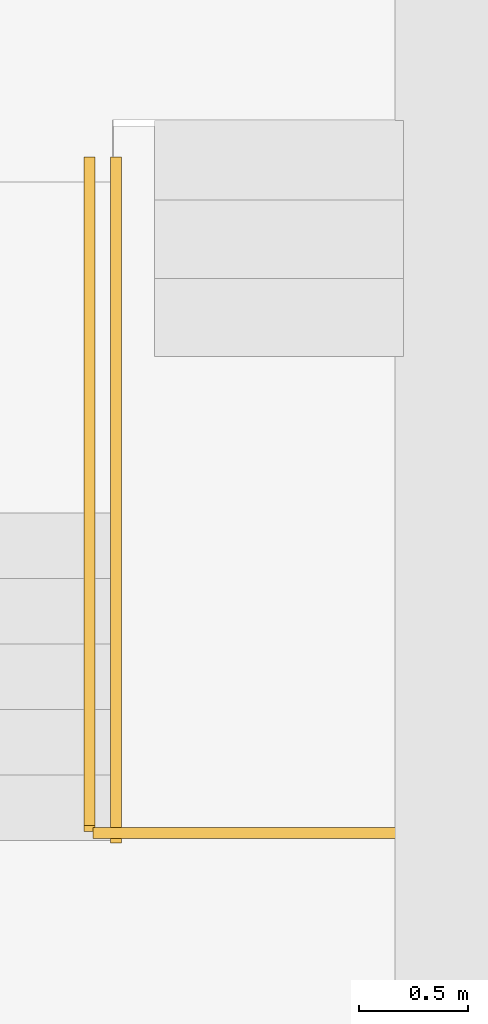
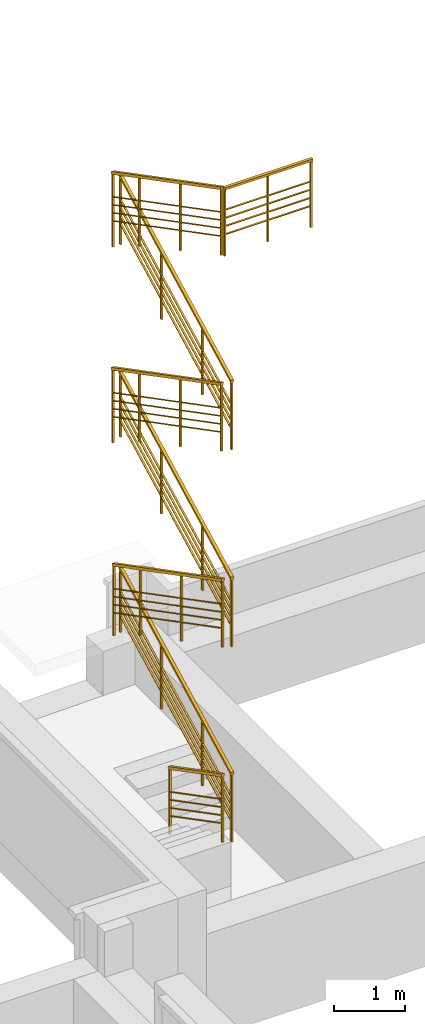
# One storey, part 6 of 6: 1 railing.
"""IFC2X3 building model written with IfcOpenShell, lengths in millimetres."""

from ifc_helpers import new_model, entity, si_unit, converted_unit, derived_unit, direction, frame, frame_2d, origin, place, context, subcontext, project, spatial, polyline, rectangle, outline, extrude, source, transform, mapped, material, type_object, type_shapes, element, save


model = new_model("IFC2X3")

# Units and contexts
model_context = context("Model", 3, precision=0.01, world=origin(), true_north=direction((6.12303176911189e-17, 1.0)))
body_context = subcontext(model_context, "Body", "Model", "MODEL_VIEW")
ifc_project = project(units=[si_unit("LENGTHUNIT", "METRE", prefix="MILLI"), si_unit("AREAUNIT", "SQUARE_METRE"), si_unit("VOLUMEUNIT", "CUBIC_METRE"), converted_unit("PLANEANGLEUNIT", "DEGREE", entity("IfcRatioMeasure", 0.0174532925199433), si_unit("PLANEANGLEUNIT", "RADIAN"), dimensions=[0, 0, 0, 0, 0, 0, 0]), si_unit("MASSUNIT", "GRAM", prefix="KILO"), derived_unit("MASSDENSITYUNIT", [(si_unit("MASSUNIT", "GRAM", prefix="KILO"), 1), (si_unit("LENGTHUNIT", "METRE"), -3)]), si_unit("TIMEUNIT", "SECOND"), si_unit("FREQUENCYUNIT", "HERTZ"), si_unit("THERMODYNAMICTEMPERATUREUNIT", "DEGREE_CELSIUS"), derived_unit("THERMALTRANSMITTANCEUNIT", [(si_unit("MASSUNIT", "GRAM", prefix="KILO"), 1), (si_unit("THERMODYNAMICTEMPERATUREUNIT", "KELVIN"), -1), (si_unit("TIMEUNIT", "SECOND"), -3)]), derived_unit("VOLUMETRICFLOWRATEUNIT", [(si_unit("LENGTHUNIT", "METRE"), 3), (si_unit("TIMEUNIT", "SECOND"), -1)]), si_unit("ELECTRICCURRENTUNIT", "AMPERE"), si_unit("ELECTRICVOLTAGEUNIT", "VOLT"), si_unit("POWERUNIT", "WATT"), si_unit("FORCEUNIT", "NEWTON", prefix="KILO"), si_unit("ILLUMINANCEUNIT", "LUX"), si_unit("LUMINOUSFLUXUNIT", "LUMEN"), si_unit("LUMINOUSINTENSITYUNIT", "CANDELA"), derived_unit("USERDEFINED", [(si_unit("MASSUNIT", "GRAM", prefix="KILO"), -1), (si_unit("LENGTHUNIT", "METRE"), -2), (si_unit("TIMEUNIT", "SECOND"), 3), (si_unit("LUMINOUSFLUXUNIT", "LUMEN"), 1)]), derived_unit("LINEARVELOCITYUNIT", [(si_unit("LENGTHUNIT", "METRE"), 1), (si_unit("TIMEUNIT", "SECOND"), -1)]), si_unit("PRESSUREUNIT", "PASCAL"), derived_unit("USERDEFINED", [(si_unit("LENGTHUNIT", "METRE"), -2), (si_unit("MASSUNIT", "GRAM", prefix="KILO"), 1), (si_unit("TIMEUNIT", "SECOND"), -2)])], contexts=[model_context])

# Site, building, storey
site_placement = place(None, frame((-151.875543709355, 2715.0, 0.0)))
site = spatial("IfcSite", under=ifc_project, at=site_placement, Name="Surface", CompositionType="ELEMENT")
building_placement = place(site_placement, origin())
building = spatial("IfcBuilding", under=site, at=building_placement, CompositionType="ELEMENT")
storey_placement = place(building_placement, frame((0.0, 0.0, -1200.0)))
storey = spatial("IfcBuildingStorey", under=building, at=storey_placement, Name="Vundament", CompositionType="ELEMENT", Elevation=-1199.99999999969)

# Railing
ifc_material = material(Name="__Metal Tumehall")
railing_type = type_object("IfcRailingType", Name="Generic Models 7", PredefinedType="NOTDEFINED", material=ifc_material)
shared_shape = source(origin(), body_context, "Body", "SweptSolid", [
    extrude(outline(polyline([(-411.736075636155, -748.318699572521), (-366.887595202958, -748.318699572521), (411.736075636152, 748.318699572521), (366.887595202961, 748.318699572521), (-411.736075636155, -748.318699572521)])), frame((3068.76756733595, 8589.87450721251, 773.694421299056), z_axis=(1.0, 0.0, 0.0), x_axis=(0.0, 0.0, 1.0)), (0.0, 0.0, 1.0), 50.0),
    extrude(outline(polyline([(-1157.61996270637, -748.318699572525), (-17.0379462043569, -748.318699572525), (-17.0379462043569, -718.3186995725), (-325.484573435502, -718.3186995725), (421.924175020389, 718.318699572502), (737.126272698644, 718.318699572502), (737.126272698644, 748.318699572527), (-378.996291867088, 748.318699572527), (-1157.61996270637, -748.318699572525)]), holes=[polyline([(284.231471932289, 718.318699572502), (410.651825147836, 718.318699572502), (-336.756923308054, -718.3186995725), (-463.177276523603, -718.3186995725), (284.231471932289, 718.318699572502)]), polyline([(146.538768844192, 718.318699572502), (272.959122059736, 718.318699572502), (-474.449626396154, -718.3186995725), (-600.869979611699, -718.3186995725), (146.538768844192, 718.318699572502)]), polyline([(8.8460657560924, 718.318699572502), (135.266418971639, 718.318699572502), (-612.142329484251, -718.3186995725), (-738.562682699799, -718.3186995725), (8.8460657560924, 718.318699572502)]), polyline([(-2.42628411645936, 718.318699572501), (-749.835032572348, -718.318699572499), (-1130.74015164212, -718.318699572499), (-383.331403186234, 718.318699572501), (-2.42628411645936, 718.318699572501)])]), frame((3078.76756733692, 8589.8745072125, -17.0379462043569), z_axis=(1.0, 0.0, 0.0), x_axis=(0.0, 0.0, -1.0)), (0.0, 0.0, 1.0), 30.0000000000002),
    extrude(outline(polyline([(-823.063433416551, -1538.95470256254), (-778.214952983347, -1538.95470256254), (823.063433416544, 1538.95470256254), (778.214952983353, 1538.95470256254), (-823.063433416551, -1538.95470256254)])), frame((3068.76756733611, 9380.51051020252, 3712.36706351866), z_axis=(1.0, 0.0, 0.0), x_axis=(0.0, 0.0, 1.0)), (0.0, 0.0, 1.0), 50.0),
    extrude(outline(polyline([(-1732.48457298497, -1640.35017282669), (-591.902556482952, -1640.35017282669), (-591.902556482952, -1610.35017282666), (-900.349183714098, -1610.35017282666), (-317.065186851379, -489.186410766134), (2.898947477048, -489.186410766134), (2.898947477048, -459.186410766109), (-301.457725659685, -459.186410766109), (281.826271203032, 661.97735129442), (597.700451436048, 661.97735129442), (597.700451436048, 691.977351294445), (297.433732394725, 691.977351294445), (669.714280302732, 1407.55923229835), (1058.09744351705, 1407.55923229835), (1058.09744351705, 1437.55923229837), (-131.206186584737, 1437.55923229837), (-1732.48457298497, -1640.35017282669)]), holes=[polyline([(-454.757889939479, -489.186410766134), (-328.337536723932, -489.186410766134), (-911.62153358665, -1610.35017282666), (-1038.0418868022, -1610.35017282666), (-454.757889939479, -489.186410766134)]), polyline([(-592.450593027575, -489.186410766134), (-466.030239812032, -489.186410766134), (-1049.31423667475, -1610.35017282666), (-1175.73458989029, -1610.35017282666), (-592.450593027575, -489.186410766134)]), polyline([(-730.143296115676, -489.186410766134), (-603.722942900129, -489.186410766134), (-1187.00693976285, -1610.35017282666), (-1313.42729297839, -1610.35017282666), (-730.143296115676, -489.186410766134)]), polyline([(-741.415645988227, -489.186410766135), (-1324.69964285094, -1610.35017282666), (-1705.60476192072, -1610.35017282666), (-1122.320765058, -489.186410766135), (-741.415645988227, -489.186410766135)]), polyline([(-142.524187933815, 661.97735129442), (-725.808184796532, -459.186410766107), (-1106.71330386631, -459.186410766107), (-523.429307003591, 661.97735129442), (-142.524187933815, 661.97735129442)]), polyline([(-131.251838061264, 661.97735129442), (-4.8314848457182, 661.97735129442), (-588.115481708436, -459.186410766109), (-714.535834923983, -459.186410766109), (-131.251838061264, 661.97735129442)]), polyline([(6.44086502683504, 661.97735129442), (132.861218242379, 661.97735129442), (-450.422778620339, -459.186410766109), (-576.843131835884, -459.186410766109), (6.44086502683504, 661.97735129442)]), polyline([(144.133568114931, 661.97735129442), (270.553921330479, 661.97735129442), (-312.730075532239, -459.186410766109), (-439.150428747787, -459.186410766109), (144.133568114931, 661.97735129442)]), polyline([(245.363821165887, 1407.55923229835), (-126.91672674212, 691.977351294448), (-507.821845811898, 691.977351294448), (-135.54129790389, 1407.55923229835), (245.363821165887, 1407.55923229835)]), polyline([(256.636171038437, 1407.55923229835), (383.056524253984, 1407.55923229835), (10.7759763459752, 691.977351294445), (-115.644376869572, 691.977351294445), (256.636171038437, 1407.55923229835)]), polyline([(394.328874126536, 1407.55923229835), (520.749227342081, 1407.55923229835), (148.468679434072, 691.977351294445), (22.0483262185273, 691.977351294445), (394.328874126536, 1407.55923229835)]), polyline([(532.021577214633, 1407.55923229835), (658.441930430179, 1407.55923229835), (286.161382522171, 691.977351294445), (159.741029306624, 691.977351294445), (532.021577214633, 1407.55923229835)])]), frame((3078.76756733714, 9481.90598046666, 2758.09744351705), z_axis=(1.0, 0.0, 0.0), x_axis=(0.0, 0.0, -1.0)), (0.0, 0.0, 1.0), 30.0000000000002),
    extrude(outline(polyline([(-1789.91057367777, -19.8931371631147), (1769.21181592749, -19.8931371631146), (1789.91057367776, 19.8931371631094), (-1769.21181592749, 19.89313716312), (-1789.91057367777, -19.8931371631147)])), frame((3190.68448937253, 9367.33793430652, 1995.73170762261), z_axis=(1.0, 0.0, 0.0), x_axis=(0.0, 0.887126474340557, 0.461526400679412)), (0.0, 0.0, 1.0), 50.0),
    extrude(outline(polyline([(-2271.12382583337, -768.218949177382), (1287.99856377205, -768.218949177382), (1819.67374407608, 253.744534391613), (1793.05994984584, 267.590326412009), (1631.03070985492, -43.8554071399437), (734.806556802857, -43.8554071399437), (873.757050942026, 223.229339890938), (847.143256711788, 237.075131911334), (700.989507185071, -43.8554071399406), (-562.825511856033, -43.85540713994), (-432.778028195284, 206.11635072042), (-459.391822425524, 219.962142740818), (-596.64256147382, -43.8554071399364), (-1860.45758051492, -43.8554071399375), (-1739.31310733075, 189.003361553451), (-1765.92690156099, 202.849153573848), (-2271.12382583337, -768.218949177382)]), holes=[polyline([(-792.491501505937, -420.307933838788), (-968.289270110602, -758.218949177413), (-2232.1042891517, -758.218949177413), (-2056.30652054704, -420.307933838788), (-792.491501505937, -420.307933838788)]), polyline([(-787.289014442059, -410.307933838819), (-2051.10403348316, -410.30793383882), (-1992.75770289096, -298.157091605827), (-728.942683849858, -298.157091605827), (-787.289014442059, -410.307933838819)]), polyline([(-723.740196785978, -288.157091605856), (-1987.55521582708, -288.157091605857), (-1929.20888523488, -176.006249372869), (-665.39386619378, -176.006249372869), (-723.740196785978, -288.157091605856)]), polyline([(-660.1913791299, -166.006249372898), (-1924.006398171, -166.006249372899), (-1865.6600675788, -53.855407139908), (-601.8450485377, -53.8554071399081), (-660.1913791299, -166.006249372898)]), polyline([(505.140567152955, -420.307933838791), (329.34279854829, -758.218949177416), (-934.472220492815, -758.218949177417), (-758.674451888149, -420.30793383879), (505.140567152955, -420.307933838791)]), polyline([(510.343054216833, -410.307933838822), (-753.471964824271, -410.307933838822), (-695.125634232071, -298.157091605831), (568.689384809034, -298.157091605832), (510.343054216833, -410.307933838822)]), polyline([(573.891871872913, -288.157091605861), (-689.923147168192, -288.157091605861), (-631.576816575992, -176.006249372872), (632.238202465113, -176.006249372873), (573.891871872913, -288.157091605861)]), polyline([(637.440689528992, -166.006249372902), (-626.374329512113, -166.006249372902), (-568.027998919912, -53.855407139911), (695.787020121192, -53.8554071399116), (637.440689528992, -166.006249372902)]), polyline([(1435.1817698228, -420.307933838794), (1259.38400121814, -758.21894917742), (363.159848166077, -758.218949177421), (538.957616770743, -420.307933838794), (1435.1817698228, -420.307933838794)]), polyline([(1440.38425688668, -410.307933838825), (544.160103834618, -410.307933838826), (602.506434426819, -298.157091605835), (1498.73058747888, -298.157091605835), (1440.38425688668, -410.307933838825)]), polyline([(1503.93307454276, -288.157091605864), (607.708921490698, -288.157091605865), (666.055252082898, -176.006249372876), (1562.27940513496, -176.006249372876), (1503.93307454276, -288.157091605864)]), polyline([(1567.48189219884, -166.006249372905), (671.257739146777, -166.006249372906), (729.604069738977, -53.8554071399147), (1625.82822279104, -53.8554071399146), (1567.48189219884, -166.006249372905)])]), frame((3200.68448937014, 9285.81303707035, 1064.93096769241), z_axis=(1.0, 0.0, 0.0), x_axis=(0.0, -0.887126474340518, -0.461526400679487)), (0.0, 0.0, 1.0), 30.0000000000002),
    extrude(outline(polyline([(-823.063433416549, -1538.95470256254), (-778.214952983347, -1538.95470256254), (823.063433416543, 1538.95470256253), (778.214952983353, 1538.95470256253), (-823.063433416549, -1538.95470256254)])), frame((3068.76756733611, 9407.07908036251, 7060.53539847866), z_axis=(1.0, 0.0, 0.0), x_axis=(0.0, 0.0, 1.0)), (0.0, 0.0, 1.0), 50.0),
    extrude(outline(polyline([(-1748.59439478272, -1640.35017282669), (-608.012378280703, -1640.35017282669), (-608.012378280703, -1610.35017282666), (-916.459005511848, -1610.35017282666), (-333.175008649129, -489.186410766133), (11.6890280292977, -489.186410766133), (11.6890280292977, -459.186410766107), (-317.567547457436, -459.186410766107), (265.716449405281, 661.977351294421), (631.390434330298, 661.977351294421), (631.390434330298, 691.977351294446), (281.323910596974, 691.977351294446), (653.604458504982, 1407.55923229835), (1096.1664890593, 1407.55923229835), (1096.1664890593, 1437.55923229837), (-147.316008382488, 1437.55923229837), (-1748.59439478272, -1640.35017282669)]), holes=[polyline([(-470.86771173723, -489.186410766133), (-344.447358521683, -489.186410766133), (-927.7313553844, -1610.35017282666), (-1054.15170859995, -1610.35017282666), (-470.86771173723, -489.186410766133)]), polyline([(-608.560414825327, -489.186410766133), (-482.140061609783, -489.186410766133), (-1065.4240584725, -1610.35017282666), (-1191.84441168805, -1610.35017282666), (-608.560414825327, -489.186410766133)]), polyline([(-746.253117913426, -489.186410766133), (-619.832764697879, -489.186410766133), (-1203.1167615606, -1610.35017282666), (-1329.53711477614, -1610.35017282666), (-746.253117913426, -489.186410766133)]), polyline([(-757.525467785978, -489.186410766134), (-1340.80946464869, -1610.35017282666), (-1721.71458371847, -1610.35017282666), (-1138.43058685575, -489.186410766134), (-757.525467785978, -489.186410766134)]), polyline([(-158.634009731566, 661.977351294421), (-741.918006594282, -459.186410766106), (-1122.82312566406, -459.186410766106), (-539.539128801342, 661.977351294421), (-158.634009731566, 661.977351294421)]), polyline([(-147.361659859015, 661.977351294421), (-20.9413066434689, 661.977351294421), (-604.225303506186, -459.186410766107), (-730.645656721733, -459.186410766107), (-147.361659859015, 661.977351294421)]), polyline([(-9.6689567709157, 661.977351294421), (116.751396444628, 661.977351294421), (-466.53260041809, -459.186410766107), (-592.952953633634, -459.186410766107), (-9.6689567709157, 661.977351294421)]), polyline([(128.023746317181, 661.977351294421), (254.444099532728, 661.977351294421), (-328.839897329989, -459.186410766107), (-455.260250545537, -459.186410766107), (128.023746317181, 661.977351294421)]), polyline([(229.253999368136, 1407.55923229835), (-143.026548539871, 691.977351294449), (-523.931667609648, 691.977351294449), (-151.651119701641, 1407.55923229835), (229.253999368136, 1407.55923229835)]), polyline([(240.526349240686, 1407.55923229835), (366.946702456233, 1407.55923229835), (-5.33384545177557, 691.977351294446), (-131.754198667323, 691.977351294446), (240.526349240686, 1407.55923229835)]), polyline([(378.219052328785, 1407.55923229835), (504.63940554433, 1407.55923229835), (132.358857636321, 691.977351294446), (5.93850442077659, 691.977351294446), (378.219052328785, 1407.55923229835)]), polyline([(515.911755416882, 1407.55923229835), (642.332108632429, 1407.55923229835), (270.051560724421, 691.977351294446), (143.631207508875, 691.977351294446), (515.911755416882, 1407.55923229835)])]), frame((3078.76756733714, 9508.47455062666, 6090.1559566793), z_axis=(1.0, 0.0, 0.0), x_axis=(0.0, 0.0, -1.0)), (0.0, 0.0, 1.0), 30.0000000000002),
    extrude(outline(polyline([(-1789.91057367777, -19.8931371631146), (1769.21181592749, -19.8931371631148), (1789.91057367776, 19.8931371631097), (-1769.21181592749, 19.8931371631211), (-1789.91057367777, -19.8931371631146)])), frame((3190.68448937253, 9367.33793430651, 5345.7317076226), z_axis=(1.0, 0.0, 0.0), x_axis=(0.0, 0.887126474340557, 0.461526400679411)), (0.0, 0.0, 1.0), 50.0),
    extrude(outline(polyline([(-2271.12382583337, -768.218949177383), (1287.99856377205, -768.218949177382), (1819.67374407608, 253.744534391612), (1793.05994984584, 267.590326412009), (1631.03070985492, -43.8554071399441), (734.806556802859, -43.8554071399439), (873.757050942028, 223.229339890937), (847.14325671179, 237.075131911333), (700.989507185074, -43.8554071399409), (-562.825511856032, -43.8554071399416), (-432.778028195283, 206.11635072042), (-459.391822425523, 219.962142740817), (-596.64256147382, -43.8554071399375), (-1860.45758051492, -43.8554071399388), (-1739.31310733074, 189.00336155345), (-1765.92690156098, 202.849153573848), (-2271.12382583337, -768.218949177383)]), holes=[polyline([(-792.491501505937, -420.307933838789), (-968.289270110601, -758.218949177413), (-2232.1042891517, -758.218949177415), (-2056.30652054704, -420.307933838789), (-792.491501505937, -420.307933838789)]), polyline([(-787.289014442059, -410.307933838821), (-2051.10403348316, -410.307933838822), (-1992.75770289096, -298.157091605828), (-728.942683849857, -298.157091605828), (-787.289014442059, -410.307933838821)]), polyline([(-723.740196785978, -288.157091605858), (-1987.55521582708, -288.157091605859), (-1929.20888523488, -176.00624937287), (-665.393866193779, -176.006249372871), (-723.740196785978, -288.157091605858)]), polyline([(-660.1913791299, -166.0062493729), (-1924.006398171, -166.006249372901), (-1865.6600675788, -53.8554071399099), (-601.845048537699, -53.855407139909), (-660.1913791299, -166.0062493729)]), polyline([(505.140567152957, -420.307933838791), (329.342798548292, -758.218949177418), (-934.472220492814, -758.218949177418), (-758.674451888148, -420.307933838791), (505.140567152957, -420.307933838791)]), polyline([(510.343054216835, -410.307933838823), (-753.471964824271, -410.307933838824), (-695.12563423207, -298.157091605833), (568.689384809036, -298.157091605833), (510.343054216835, -410.307933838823)]), polyline([(573.891871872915, -288.157091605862), (-689.923147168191, -288.157091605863), (-631.576816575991, -176.006249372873), (632.238202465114, -176.006249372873), (573.891871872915, -288.157091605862)]), polyline([(637.440689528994, -166.006249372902), (-626.374329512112, -166.006249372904), (-568.027998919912, -53.8554071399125), (695.787020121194, -53.8554071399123), (637.440689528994, -166.006249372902)]), polyline([(1435.18176982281, -420.307933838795), (1259.38400121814, -758.218949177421), (363.159848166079, -758.218949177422), (538.957616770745, -420.307933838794), (1435.18176982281, -420.307933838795)]), polyline([(1440.38425688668, -410.307933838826), (544.16010383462, -410.307933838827), (602.506434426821, -298.157091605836), (1498.73058747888, -298.157091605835), (1440.38425688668, -410.307933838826)]), polyline([(1503.93307454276, -288.157091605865), (607.7089214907, -288.157091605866), (666.0552520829, -176.006249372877), (1562.27940513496, -176.006249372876), (1503.93307454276, -288.157091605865)]), polyline([(1567.48189219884, -166.006249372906), (671.257739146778, -166.006249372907), (729.60406973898, -53.8554071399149), (1625.82822279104, -53.855407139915), (1567.48189219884, -166.006249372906)])]), frame((3200.68448937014, 9285.81303707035, 4414.93096769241), z_axis=(1.0, 0.0, 0.0), x_axis=(0.0, -0.887126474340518, -0.461526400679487)), (0.0, 0.0, 1.0), 30.0000000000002),
    extrude(outline(polyline([(-1789.91057367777, -19.8931371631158), (1769.21181592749, -19.8931371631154), (1789.91057367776, 19.89313716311), (-1769.21181592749, 19.8931371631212), (-1789.91057367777, -19.8931371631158)])), frame((3190.68448937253, 9367.33793430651, 8726.1637411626), z_axis=(1.0, 0.0, 0.0), x_axis=(0.0, 0.887126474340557, 0.461526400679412)), (0.0, 0.0, 1.0), 50.0),
    extrude(outline(polyline([(-2279.34124527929, -784.014124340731), (1279.78114432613, -784.014124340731), (1811.45632463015, 237.949359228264), (1784.84253039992, 251.795151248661), (1622.813290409, -59.6505823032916), (726.589137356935, -59.6505823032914), (874.930968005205, 225.485793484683), (848.317173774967, 239.33158550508), (692.772087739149, -59.6505823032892), (-571.042931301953, -59.6505823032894), (-419.082329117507, 232.441642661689), (-445.696123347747, 246.287434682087), (-604.85998091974, -59.6505823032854), (-1868.67499996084, -59.6505823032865), (-1713.09562624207, 239.397491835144), (-1739.70942047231, 253.243283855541), (-2279.34124527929, -784.014124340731)]), holes=[polyline([(-800.708920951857, -436.103109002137), (-976.506689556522, -774.014124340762), (-2240.32170859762, -774.014124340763), (-2064.52393999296, -436.103109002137), (-800.708920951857, -436.103109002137)]), polyline([(-795.506433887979, -426.103109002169), (-2059.32145292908, -426.10310900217), (-2000.97512233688, -313.952266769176), (-737.160103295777, -313.952266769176), (-795.506433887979, -426.103109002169)]), polyline([(-731.957616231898, -303.952266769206), (-1995.772635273, -303.952266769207), (-1937.4263046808, -191.801424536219), (-673.6112856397, -191.801424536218), (-731.957616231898, -303.952266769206)]), polyline([(-668.40879857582, -181.801424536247), (-1932.22381761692, -181.801424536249), (-1873.87748702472, -69.6505823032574), (-610.06246798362, -69.6505823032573), (-668.40879857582, -181.801424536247)]), polyline([(496.923147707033, -436.10310900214), (321.125379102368, -774.014124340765), (-942.689639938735, -774.014124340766), (-766.891871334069, -436.103109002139), (496.923147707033, -436.10310900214)]), polyline([(502.125634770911, -426.103109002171), (-761.689384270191, -426.103109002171), (-703.343053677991, -313.952266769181), (560.471965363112, -313.95226676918), (502.125634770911, -426.103109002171)]), polyline([(565.674452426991, -303.95226676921), (-698.140566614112, -303.952266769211), (-639.794236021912, -191.801424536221), (624.02078301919, -191.801424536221), (565.674452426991, -303.95226676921)]), polyline([(629.22327008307, -181.80142453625), (-634.591748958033, -181.801424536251), (-576.245418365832, -69.6505823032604), (687.56960067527, -69.6505823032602), (629.22327008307, -181.80142453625)]), polyline([(1426.96435037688, -436.103109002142), (1251.16658177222, -774.014124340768), (354.942428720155, -774.014124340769), (530.740197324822, -436.103109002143), (1426.96435037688, -436.103109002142)]), polyline([(1432.16683744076, -426.103109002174), (535.942684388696, -426.103109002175), (594.289014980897, -313.952266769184), (1490.51316803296, -313.952266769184), (1432.16683744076, -426.103109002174)]), polyline([(1495.71565509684, -303.952266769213), (599.491502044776, -303.952266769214), (657.837832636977, -191.801424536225), (1554.06198568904, -191.801424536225), (1495.71565509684, -303.952266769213)]), polyline([(1559.26447275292, -181.801424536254), (663.040319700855, -181.801424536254), (721.386650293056, -69.6505823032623), (1617.61080334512, -69.6505823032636), (1559.26447275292, -181.801424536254)])]), frame((3200.68448937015, 9285.81303707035, 7777.5581271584), z_axis=(1.0, 0.0, 0.0), x_axis=(0.0, -0.887126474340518, -0.461526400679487)), (0.0, 0.0, 1.0), 30.0000000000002),
    extrude(outline(polyline([(-823.063433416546, -1538.95470256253), (-778.214952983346, -1538.95470256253), (823.063433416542, 1538.95470256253), (778.214952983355, 1538.95470256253), (-823.063433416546, -1538.95470256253)])), frame((3068.7675673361, 9407.0790803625, 10422.3670635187), z_axis=(1.0, 0.0, 0.0), x_axis=(0.0, 0.0, 1.0)), (0.0, 0.0, 1.0), 50.0),
    extrude(outline(polyline([(-1748.59439478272, -1640.35017282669), (-608.012378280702, -1640.35017282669), (-608.012378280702, -1610.35017282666), (-916.459005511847, -1610.35017282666), (-333.175008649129, -489.186410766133), (11.6890280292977, -489.186410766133), (11.6890280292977, -459.186410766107), (-317.567547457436, -459.186410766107), (265.716449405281, 661.977351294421), (631.390434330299, 661.977351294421), (631.390434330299, 691.977351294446), (281.323910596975, 691.977351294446), (653.604458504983, 1407.55923229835), (1096.1664890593, 1407.55923229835), (1096.1664890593, 1437.55923229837), (-147.316008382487, 1437.55923229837), (-1748.59439478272, -1640.35017282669)]), holes=[polyline([(-470.867711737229, -489.186410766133), (-344.447358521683, -489.186410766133), (-927.7313553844, -1610.35017282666), (-1054.15170859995, -1610.35017282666), (-470.867711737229, -489.186410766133)]), polyline([(-608.560414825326, -489.186410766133), (-482.140061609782, -489.186410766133), (-1065.4240584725, -1610.35017282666), (-1191.84441168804, -1610.35017282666), (-608.560414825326, -489.186410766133)]), polyline([(-746.253117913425, -489.186410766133), (-619.832764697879, -489.186410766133), (-1203.1167615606, -1610.35017282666), (-1329.53711477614, -1610.35017282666), (-746.253117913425, -489.186410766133)]), polyline([(-757.525467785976, -489.186410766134), (-1340.80946464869, -1610.35017282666), (-1721.71458371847, -1610.35017282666), (-1138.43058685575, -489.186410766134), (-757.525467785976, -489.186410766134)]), polyline([(-158.634009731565, 661.977351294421), (-741.918006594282, -459.186410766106), (-1122.82312566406, -459.186410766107), (-539.539128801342, 661.977351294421), (-158.634009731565, 661.977351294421)]), polyline([(-147.361659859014, 661.977351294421), (-20.9413066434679, 661.977351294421), (-604.225303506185, -459.186410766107), (-730.645656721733, -459.186410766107), (-147.361659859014, 661.977351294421)]), polyline([(-9.66895677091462, 661.977351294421), (116.751396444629, 661.977351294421), (-466.532600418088, -459.186410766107), (-592.952953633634, -459.186410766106), (-9.66895677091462, 661.977351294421)]), polyline([(128.023746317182, 661.977351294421), (254.444099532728, 661.977351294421), (-328.839897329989, -459.186410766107), (-455.260250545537, -459.186410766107), (128.023746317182, 661.977351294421)]), polyline([(229.253999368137, 1407.55923229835), (-143.02654853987, 691.977351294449), (-523.931667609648, 691.977351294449), (-151.65111970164, 1407.55923229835), (229.253999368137, 1407.55923229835)]), polyline([(240.526349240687, 1407.55923229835), (366.946702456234, 1407.55923229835), (-5.33384545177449, 691.977351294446), (-131.754198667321, 691.977351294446), (240.526349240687, 1407.55923229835)]), polyline([(378.219052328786, 1407.55923229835), (504.639405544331, 1407.55923229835), (132.358857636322, 691.977351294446), (5.93850442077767, 691.977351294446), (378.219052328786, 1407.55923229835)]), polyline([(515.911755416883, 1407.55923229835), (642.33210863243, 1407.55923229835), (270.051560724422, 691.977351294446), (143.631207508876, 691.977351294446), (515.911755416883, 1407.55923229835)])]), frame((3078.76756733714, 9508.47455062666, 9451.9876217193), z_axis=(1.0, 0.0, 0.0), x_axis=(0.0, 0.0, -1.0)), (0.0, 0.0, 1.0), 30.0000000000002),
    extrude(rectangle(XDim=49.9999999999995, YDim=1430.75700116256, at=frame_2d((-5.41788836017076e-13, 0.0), x_axis=(1.0, 0.0))), frame((3825.49442876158, 7834.6323172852, 11205.0), z_axis=(0.0, 0.0, 1.0), x_axis=(0.0, -1.0, 0.0)), (0.0, 0.0, 1.0), 39.9999999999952),
    extrude(outline(polyline([(-714.979235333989, -834.166666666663), (714.979235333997, -834.166666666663), (714.979235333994, 310.833333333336), (684.979235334, 310.833333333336), (684.979235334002, -49.1666666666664), (15.0, -49.1666666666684), (15.0, 310.833333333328), (-15.0, 310.833333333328), (-15.0, -49.1666666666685), (-684.979235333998, -49.1666666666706), (-684.979235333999, 310.83333333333), (-714.979235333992, 310.83333333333), (-714.979235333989, -834.166666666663)]), holes=[polyline([(15.0, -824.166666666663), (15.0, -479.16666666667), (684.979235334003, -479.166666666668), (684.979235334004, -824.166666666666), (15.0, -824.166666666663)]), polyline([(-15.0, -59.1666666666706), (-15.0, -189.166666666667), (-684.979235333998, -189.166666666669), (-684.979235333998, -59.1666666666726), (-15.0, -59.1666666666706)]), polyline([(-15.0, -199.166666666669), (-15.0, -329.16666666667), (-684.979235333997, -329.166666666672), (-684.979235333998, -199.166666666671), (-15.0, -199.166666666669)]), polyline([(-15.0, -339.166666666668), (-15.0, -469.166666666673), (-684.979235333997, -469.166666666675), (-684.979235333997, -339.16666666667), (-15.0, -339.166666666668)]), polyline([(-15.0, -479.16666666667), (-15.0, -824.166666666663), (-684.979235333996, -824.166666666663), (-684.979235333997, -479.166666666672), (-15.0, -479.16666666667)]), polyline([(684.979235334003, -469.166666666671), (15.0, -469.166666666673), (15.0, -339.166666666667), (684.979235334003, -339.166666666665), (684.979235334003, -469.166666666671)]), polyline([(684.979235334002, -329.166666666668), (15.0, -329.16666666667), (15.0, -199.166666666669), (684.979235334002, -199.166666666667), (684.979235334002, -329.166666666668)]), polyline([(684.979235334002, -189.166666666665), (15.0, -189.166666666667), (15.0, -59.1666666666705), (684.979235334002, -59.1666666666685), (684.979235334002, -189.166666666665)])]), frame((3825.09516351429, 7829.632317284, 10370.8333333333), z_axis=(0.0, 1.0, 0.0), x_axis=(1.0, 0.0, 0.0)), (0.0, 0.0, 1.0), 29.9999999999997),
])
type_shapes(railing_type, [shared_shape])
railing_placement = place(storey_placement, frame((0.0, 0.0, 1200.0)))
element("IfcRailing", 1, at=railing_placement, inside=storey, type_object=railing_type, material=ifc_material, Name="Generic Models 1:Generic Models 7", ObjectType="Generic Models 7", PredefinedType="NOTDEFINED", context=body_context, shape_type="MappedRepresentation", body=[
    mapped(shared_shape, transform((0.0, 0.0, 0.0), scale=1.0)),
])

save(model, "model.ifc")
